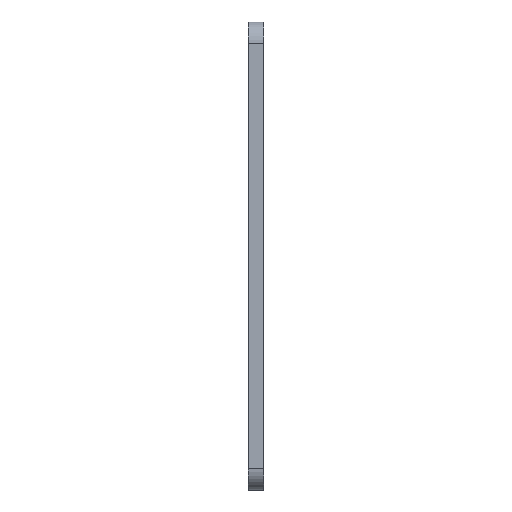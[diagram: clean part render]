
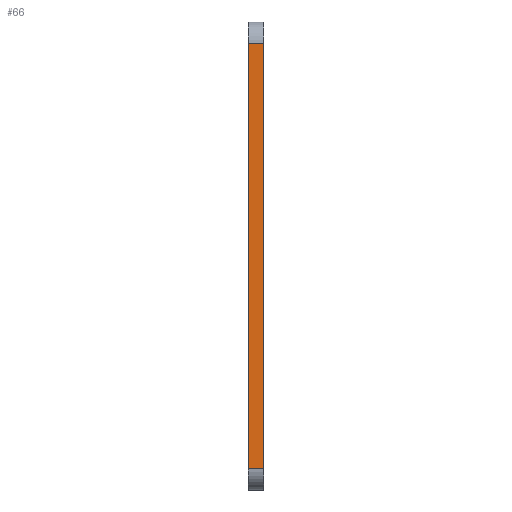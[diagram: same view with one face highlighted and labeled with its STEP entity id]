
A CAD part, left-side view. The second image highlights one B-rep face of the part: STEP entity #66.
In plain terms, the highlighted planar face has unit normal (-1, 0, 0).
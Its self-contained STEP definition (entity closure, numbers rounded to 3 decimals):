
#16 = EDGE_CURVE ( 'NONE', #595, #511, #616, .T. ) ;
#24 = CARTESIAN_POINT ( 'NONE',  ( -7., 1.5, -5. ) ) ;
#39 = EDGE_CURVE ( 'NONE', #476, #595, #288, .T. ) ;
#66 = ADVANCED_FACE ( 'NONE', ( #111 ), #218, .T. ) ;
#95 = EDGE_LOOP ( 'NONE', ( #442, #139, #285, #716 ) ) ;
#111 = FACE_OUTER_BOUND ( 'NONE', #95, .T. ) ;
#112 = VECTOR ( 'NONE', #646, 1000. ) ;
#121 = DIRECTION ( 'NONE',  ( 0., 0., 1. ) ) ;
#129 = DIRECTION ( 'NONE',  ( 0., -1., 0. ) ) ;
#136 = CARTESIAN_POINT ( 'NONE',  ( -7., 1.5, -7. ) ) ;
#139 = ORIENTED_EDGE ( 'NONE', *, *, #395, .T. ) ;
#141 = VECTOR ( 'NONE', #665, 1000. ) ;
#218 = PLANE ( 'NONE',  #220 ) ;
#220 = AXIS2_PLACEMENT_3D ( 'NONE', #740, #510, #121 ) ;
#252 = LINE ( 'NONE', #136, #112 ) ;
#285 = ORIENTED_EDGE ( 'NONE', *, *, #39, .T. ) ;
#288 = LINE ( 'NONE', #545, #141 ) ;
#289 = VECTOR ( 'NONE', #129, 1000. ) ;
#309 = CARTESIAN_POINT ( 'NONE',  ( -7., 1.5, 35. ) ) ;
#317 = DIRECTION ( 'NONE',  ( 0., 1., 0. ) ) ;
#352 = CARTESIAN_POINT ( 'NONE',  ( -7., 0., -5. ) ) ;
#395 = EDGE_CURVE ( 'NONE', #503, #476, #439, .T. ) ;
#439 = LINE ( 'NONE', #517, #289 ) ;
#442 = ORIENTED_EDGE ( 'NONE', *, *, #454, .F. ) ;
#454 = EDGE_CURVE ( 'NONE', #503, #511, #252, .T. ) ;
#459 = VECTOR ( 'NONE', #317, 1000. ) ;
#476 = VERTEX_POINT ( 'NONE', #352 ) ;
#503 = VERTEX_POINT ( 'NONE', #24 ) ;
#510 = DIRECTION ( 'NONE',  ( -1., 0., 0. ) ) ;
#511 = VERTEX_POINT ( 'NONE', #309 ) ;
#517 = CARTESIAN_POINT ( 'NONE',  ( -7., 0., -5. ) ) ;
#545 = CARTESIAN_POINT ( 'NONE',  ( -7., 0., -7. ) ) ;
#595 = VERTEX_POINT ( 'NONE', #729 ) ;
#616 = LINE ( 'NONE', #722, #459 ) ;
#646 = DIRECTION ( 'NONE',  ( 0., 0., 1. ) ) ;
#665 = DIRECTION ( 'NONE',  ( 0., 0., 1. ) ) ;
#716 = ORIENTED_EDGE ( 'NONE', *, *, #16, .T. ) ;
#722 = CARTESIAN_POINT ( 'NONE',  ( -7., 0., 35. ) ) ;
#729 = CARTESIAN_POINT ( 'NONE',  ( -7., 0., 35. ) ) ;
#740 = CARTESIAN_POINT ( 'NONE',  ( -7., 0., -7. ) ) ;
